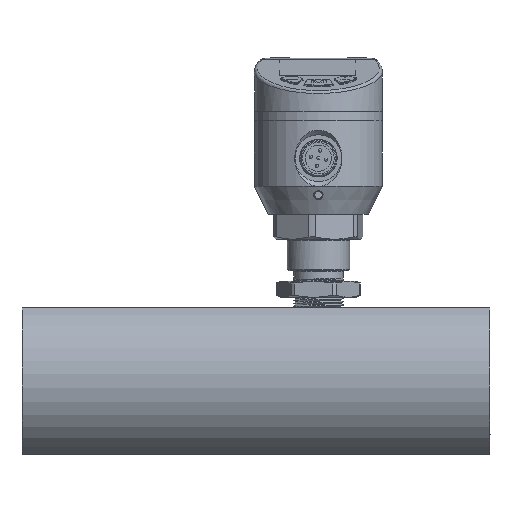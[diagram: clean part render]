
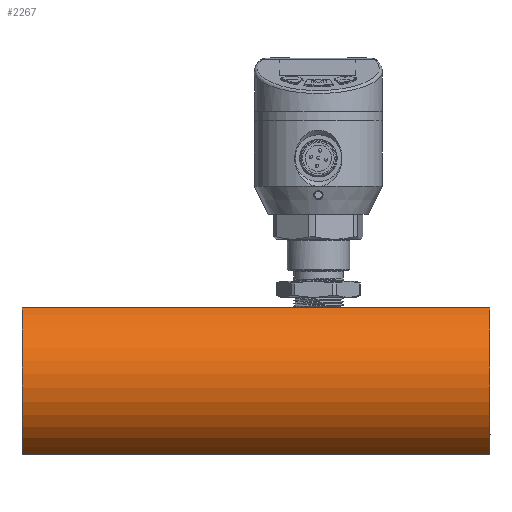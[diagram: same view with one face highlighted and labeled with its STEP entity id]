
A CAD part, left-side view. The second image highlights one B-rep face of the part: STEP entity #2267.
In plain terms, the highlighted cylindrical face has radius 26.5 mm (diameter 53 mm), a partial arc.
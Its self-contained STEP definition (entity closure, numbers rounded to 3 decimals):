
#2267=ADVANCED_FACE('',(#2847),#2709,.T.);
#2709=CYLINDRICAL_SURFACE('',#8448,26.5);
#2847=FACE_OUTER_BOUND('',#3204,.T.);
#3204=EDGE_LOOP('',(#4104,#4105,#4106,#4107));
#3745=CIRCLE('',#8446,26.5);
#3746=CIRCLE('',#8447,26.5);
#4104=ORIENTED_EDGE('',*,*,#6696,.F.);
#4105=ORIENTED_EDGE('',*,*,#6697,.T.);
#4106=ORIENTED_EDGE('',*,*,#6698,.F.);
#4107=ORIENTED_EDGE('',*,*,#6699,.T.);
#6058=VERTEX_POINT('',#11080);
#6059=VERTEX_POINT('',#11081);
#6060=VERTEX_POINT('',#11083);
#6061=VERTEX_POINT('',#11085);
#6696=EDGE_CURVE('',#6058,#6059,#7673,.T.);
#6697=EDGE_CURVE('',#6058,#6060,#3745,.T.);
#6698=EDGE_CURVE('',#6061,#6060,#7674,.T.);
#6699=EDGE_CURVE('',#6061,#6059,#3746,.T.);
#7673=LINE('',#11079,#8059);
#7674=LINE('',#11084,#8060);
#8059=VECTOR('',#9196,1.);
#8060=VECTOR('',#9199,1.);
#8446=AXIS2_PLACEMENT_3D('',#11082,#9197,#9198);
#8447=AXIS2_PLACEMENT_3D('',#11086,#9200,#9201);
#8448=AXIS2_PLACEMENT_3D('',#11087,#9202,#9203);
#9196=DIRECTION('',(0.,1.,0.));
#9197=DIRECTION('',(0.,1.,0.));
#9198=DIRECTION('',(-1.,0.,0.));
#9199=DIRECTION('',(0.,-1.,0.));
#9200=DIRECTION('',(0.,-1.,0.));
#9201=DIRECTION('',(-1.,0.,0.));
#9202=DIRECTION('',(0.,-1.,0.));
#9203=DIRECTION('',(-1.,0.,0.));
#11079=CARTESIAN_POINT('',(13.253,138.9,-141.));
#11080=CARTESIAN_POINT('',(13.253,-18.6,-141.));
#11081=CARTESIAN_POINT('',(13.253,131.4,-141.));
#11082=CARTESIAN_POINT('',(25.5,-18.6,-117.5));
#11083=CARTESIAN_POINT('',(13.253,-18.6,-94.));
#11084=CARTESIAN_POINT('',(13.253,138.9,-94.));
#11085=CARTESIAN_POINT('',(13.253,131.4,-94.));
#11086=CARTESIAN_POINT('',(25.5,131.4,-117.5));
#11087=CARTESIAN_POINT('',(25.5,138.9,-117.5));
